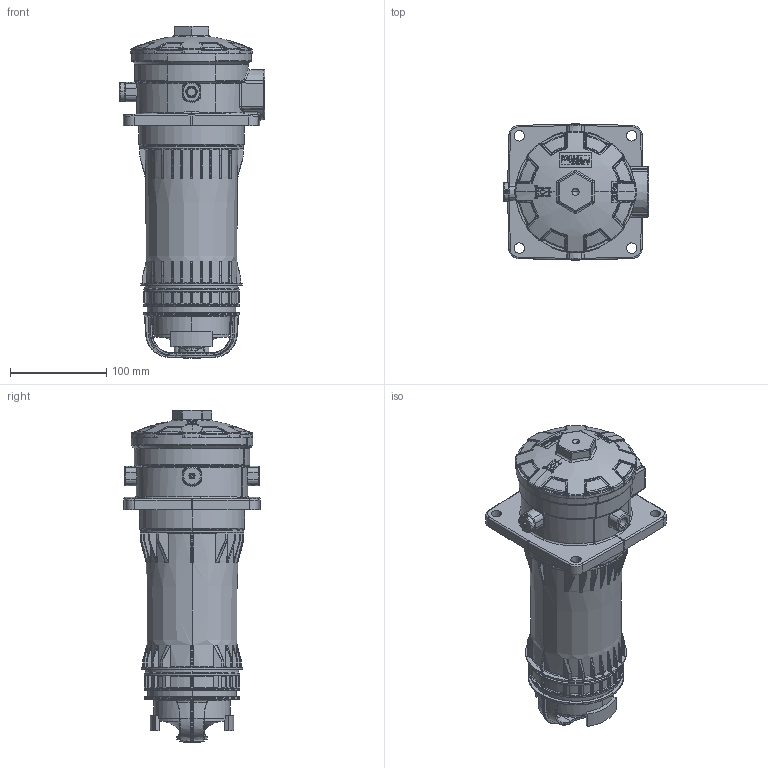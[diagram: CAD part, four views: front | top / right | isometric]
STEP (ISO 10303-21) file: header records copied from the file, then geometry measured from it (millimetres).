
FILE_DESCRIPTION((''),'2;1');
FILE_NAME('ES_075','2024-09-06T14:07:42',('a.heinl'),(''),'CREO PARAMETRIC BY PTC INC, 2023254','CREO PARAMETRIC BY PTC INC, 2023254','');
FILE_SCHEMA(('AUTOMOTIVE_DESIGN { 1 0 10303 214 1 1 1 1 }'));
Products named in the file (1): ES_075
Bounding box: 151 x 141.48 x 344.95 mm (x, y, z)
Volume: 2712542.9 mm3; surface area: 185163.6 mm2
Topology: 1 solids, 10 shells, 3381 faces, 8394 edges, 4997 vertices
Faces by surface type: bspline 934, cylinder 914, plane 697, torus 459, cone 257, sphere 105, extrusion 15
Entity records: 239818 total; most frequent: CARTESIAN_POINT 119949, ORIENTED_EDGE 16632, DIRECTION 12948, PRESENTATION_STYLE_ASSIGNMENT 11638, STYLED_ITEM 8332, CURVE_STYLE 8331, EDGE_CURVE 8316, AXIS2_PLACEMENT_3D 5483
